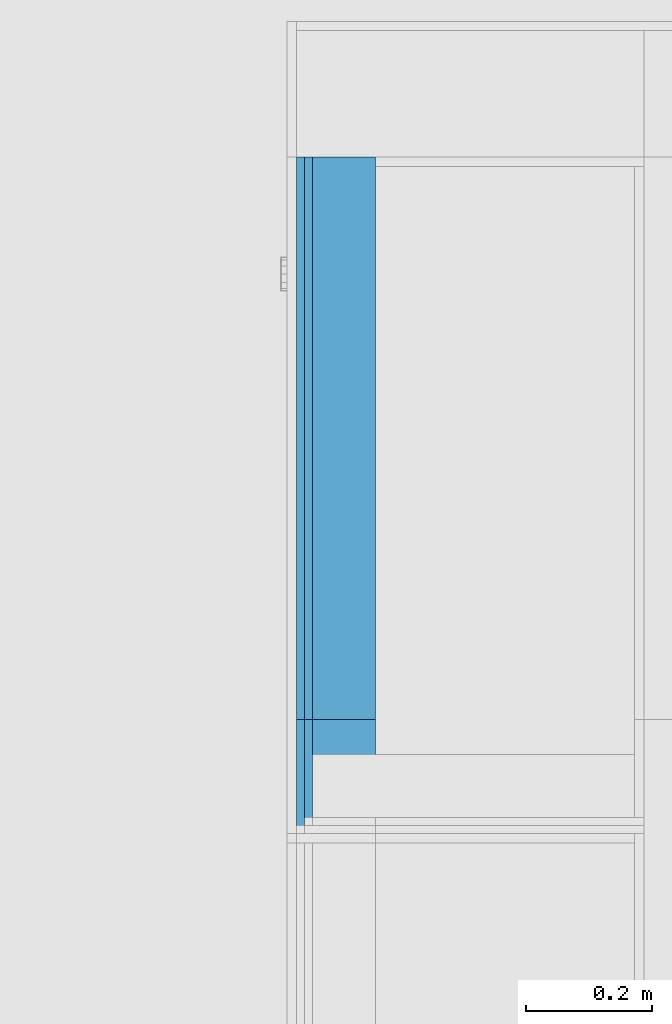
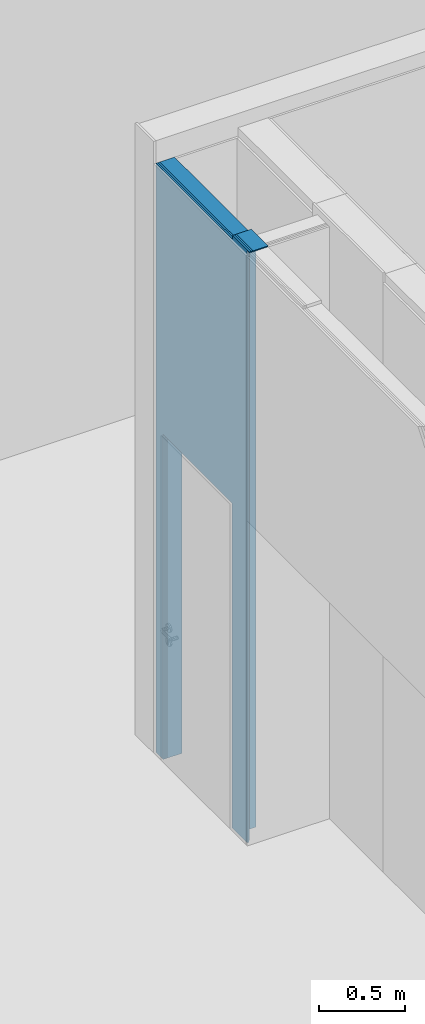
# One storey, part 114 of 260: 3 building element parts, 1 opening, 1 element without a shape of its own.
"""IFC2X3 building model written with IfcOpenShell, lengths in millimetres."""

from ifc_helpers import new_model, entity, si_unit, converted_unit, derived_unit, money_unit, direction, frame, origin_with_axes, place, context, subcontext, project, spatial, faceted_brep, material, type_object, element, aggregate, save


model = new_model("IFC2X3")

# Units and contexts
model_context = context("Model", 3, precision=0.01, world=origin_with_axes(), true_north=direction((0.0, 1.0)))
body_context = subcontext(model_context, "Body", "Model", "MODEL_VIEW")
ifc_project = project(units=[si_unit("LENGTHUNIT", "METRE", prefix="MILLI"), si_unit("AREAUNIT", "SQUARE_METRE"), si_unit("VOLUMEUNIT", "CUBIC_METRE"), converted_unit("PLANEANGLEUNIT", "DEGREE", entity("IfcPlaneAngleMeasure", 0.0174532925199), si_unit("PLANEANGLEUNIT", "RADIAN"), dimensions=[0, 0, 0, 0, 0, 0, 0]), money_unit("EUR"), converted_unit("TIMEUNIT", "Year", entity("IfcTimeMeasure", 31556926.0), si_unit("TIMEUNIT", "SECOND"), dimensions=[0, 0, 1, 0, 0, 0, 0]), si_unit("MASSUNIT", "GRAM", prefix="KILO"), si_unit("THERMODYNAMICTEMPERATUREUNIT", "DEGREE_CELSIUS"), si_unit("LUMINOUSINTENSITYUNIT", "LUMEN"), si_unit("ENERGYUNIT", "JOULE", prefix="MEGA"), derived_unit("THERMALCONDUCTANCEUNIT", [(si_unit("POWERUNIT", "WATT"), 1), (si_unit("LENGTHUNIT", "METRE"), -1), (si_unit("THERMODYNAMICTEMPERATUREUNIT", "KELVIN"), -1)]), derived_unit("SPECIFICHEATCAPACITYUNIT", [(si_unit("ENERGYUNIT", "JOULE"), 1), (si_unit("MASSUNIT", "GRAM", prefix="KILO"), -1), (si_unit("THERMODYNAMICTEMPERATUREUNIT", "KELVIN"), -1)]), derived_unit("MASSDENSITYUNIT", [(si_unit("MASSUNIT", "GRAM", prefix="KILO"), 1), (si_unit("VOLUMEUNIT", "CUBIC_METRE"), -1)])], contexts=[model_context])

# Site, building, storey
site_placement = place(None, origin_with_axes())
site = spatial("IfcSite", under=ifc_project, at=site_placement, Name="Kolde pst 67a", CompositionType="ELEMENT")
building_placement = place(site_placement, origin_with_axes())
building = spatial("IfcBuilding", under=site, at=building_placement, Name="Riigigümnaasium", CompositionType="ELEMENT")
storey_placement = place(building_placement, origin_with_axes())
storey = spatial("IfcBuildingStorey", under=building, at=storey_placement, Name="1. korrus", CompositionType="ELEMENT", Elevation=0.0)

# Wall, opening, building element parts
wall_type = type_object("IfcWallType", Name="SS-MK-10/2_šahti sein+plaat 140", PredefinedType="NOTDEFINED")
wall_placement = place(storey_placement, frame((36039.99923, 49569.9999858, 0.0), z_axis=(0.0, 0.0, 1.0), x_axis=(0.0, -1.0, 0.0)))
wall = element("IfcWall", 1, at=wall_placement, inside=storey, type_object=wall_type, Name="Sisesein")
opening_placement = place(wall_placement, frame((485.000025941, 0.0, 0.0), z_axis=(0.0, 0.0, 1.0), x_axis=(1.0, 0.0, 0.0)))
element("IfcOpeningElement", 2, at=opening_placement, cuts=wall, Name="Siseuks", context=body_context, shape_type="Brep", body=[
    faceted_brep([(400.0, -280.0, 2300.0), (400.0, -280.0, 0.0), (400.0, 140.0, 0.0), (400.0, 140.0, 2300.0), (-400.0, -280.0, 2300.0), (-400.0, -280.0, 0.0), (-400.0, 140.0, 0.0), (-400.0, 140.0, 2300.0)], [[[0, 1, 2, 3]], [[0, 4, 5, 1]], [[1, 5, 6, 2]], [[3, 2, 6, 7]], [[4, 0, 3, 7]], [[5, 4, 7, 6]]]),
])
ifc_material_1 = material(Name="_KARKASS - metallkarkass CW 100/50/06 ja UW 100/40/06, samm 600, vahel mineraalvill, helineeldetegur αw = 1.0,  ISOVER ACOUSTIC 100mm või samaväärne")
building_element_part_1_placement = place(wall_placement, origin_with_axes())
building_element_part_1 = element("IfcBuildingElementPart", 3, at=building_element_part_1_placement, material=ifc_material_1, Name="_KARKASS - metallkarkass CW 100/50/06 ja UW 100/40/06, samm 600, vahel mineraalvill, helineeldetegur αw = 1.0,  ISOVER ACOUSTIC 100mm või samaväärne", context=body_context, shape_type="Brep", body=[
    faceted_brep([(885.000025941, 140.0, 0.0), (885.000025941, 140.0, 2300.0), (85.0000259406, 140.0, 2300.0), (85.0000259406, 140.0, 0.0), (0.0, 140.0, 0.0), (0.0, 140.0, 4170.0), (889.999649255, 140.0, 4170.0), (889.999649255, 140.0, 4199.99999925), (1085.00002594, 140.0, 4199.99999908), (1085.00002594, 140.0, 4191.97493709), (945.000025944, 140.0, 4191.97493709), (945.000025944, 140.0, 0.0), (885.000025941, 40.0, 0.0), (885.000025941, 40.000000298, 2300.0), (85.0000259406, 40.000000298, 2300.0), (85.0000259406, 40.0, 0.0), (0.0, 40.0, 0.0), (0.0, 40.0, 4170.0), (889.999649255, 40.000000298, 4170.0), (889.999649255, 40.0000002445, 4199.99999925), (1085.00002594, 40.000000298, 4199.99999908), (1085.00002594, 40.0000002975, 4191.97493709), (945.000025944, 40.000000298, 4191.97493709), (945.000025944, 40.0, 0.0)], [[[0, 1, 2, 3, 4, 5, 6, 7, 8, 9, 10, 11]], [[1, 0, 12, 13]], [[2, 1, 13, 14]], [[3, 2, 14, 15]], [[3, 15, 16, 4]], [[5, 4, 16, 17]], [[5, 17, 18, 6]], [[7, 6, 18, 19]], [[19, 20, 8, 7]], [[21, 9, 8, 20]], [[22, 10, 9, 21]], [[10, 22, 23, 11]], [[12, 0, 11, 23]], [[13, 12, 23, 22, 21, 20, 19, 18, 17, 16, 15, 14]]]),
])
ifc_material_2 = material(Name="_PLAATMATERJAL - kipsplaat veekindel")
building_element_part_2_placement = place(wall_placement, origin_with_axes())
building_element_part_2 = element("IfcBuildingElementPart", 4, at=building_element_part_2_placement, material=ifc_material_2, Name="_PLAATMATERJAL - kipsplaat veekindel", context=body_context, shape_type="Brep", body=[
    faceted_brep([(885.000025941, 40.0, 0.0), (885.000025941, 40.000000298, 2300.0), (85.0000259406, 40.000000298, 2300.0), (85.0000259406, 40.0, 0.0), (0.0, 40.0, 0.0), (0.0, 40.0, 4170.0), (889.999649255, 40.000000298, 4170.0), (889.999649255, 40.0000002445, 4199.99999925), (1085.00002594, 40.000000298, 4199.99999908), (1085.00002594, 40.0000002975, 4191.97493709), (1045.00002594, 40.000000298, 4191.97493709), (1045.00002594, 40.0, 0.0), (885.000025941, 27.5, 0.0), (885.000025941, 27.5, 2300.0), (85.0000259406, 27.5, 2300.0), (85.0000259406, 27.5, 0.0), (0.0, 27.5, 0.0), (0.0, 27.5, 4170.0), (889.999649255, 27.5, 4170.0), (889.999649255, 27.5, 4199.99999925), (1085.00002594, 27.5, 4199.99999908), (1085.00002594, 27.5, 4191.97493709), (1045.00002594, 27.5, 4191.97493709), (1045.00002594, 27.5, 0.0)], [[[0, 1, 2, 3, 4, 5, 6, 7, 8, 9, 10, 11]], [[1, 0, 12, 13]], [[2, 1, 13, 14]], [[3, 2, 14, 15]], [[3, 15, 16, 4]], [[5, 4, 16, 17]], [[5, 17, 18, 6]], [[7, 6, 18, 19]], [[19, 20, 8, 7]], [[21, 9, 8, 20]], [[22, 10, 9, 21]], [[10, 22, 23, 11]], [[12, 0, 11, 23]], [[13, 12, 23, 22, 21, 20, 19, 18, 17, 16, 15, 14]]]),
])
building_element_part_3_placement = place(wall_placement, origin_with_axes())
building_element_part_3 = element("IfcBuildingElementPart", 5, at=building_element_part_3_placement, material=ifc_material_2, Name="_PLAATMATERJAL - kipsplaat veekindel", context=body_context, shape_type="Brep", body=[
    faceted_brep([(885.000025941, 27.5, 0.0), (885.000025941, 27.5, 2300.0), (85.0000259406, 27.5, 2300.0), (85.0000259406, 27.5, 0.0), (0.0, 27.5, 0.0), (0.0, 27.5, 4170.0), (889.999649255, 27.5, 4170.0), (889.999649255, 27.5, 4199.99999925), (1085.00002594, 27.5, 4199.99999908), (1085.00002594, 27.5, 4191.97493709), (1057.50002594, 27.5, 4191.97493709), (1057.50002594, 27.5, 0.0), (885.000025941, 15.0, 0.0), (885.000025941, 15.0, 2300.0), (85.0000259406, 15.0, 2300.0), (85.0000259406, 15.0, 0.0), (0.0, 15.0, 0.0), (0.0, 15.0, 4170.0), (889.999649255, 15.0, 4170.0), (889.999649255, 15.0, 4199.99999925), (1085.00002594, 15.0000008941, 4199.99999908), (1085.00002594, 15.0000008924, 4191.97493709), (1057.50002594, 15.0000008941, 4191.97493709), (1057.50002594, 15.0, 0.0)], [[[0, 1, 2, 3, 4, 5, 6, 7, 8, 9, 10, 11]], [[1, 0, 12, 13]], [[2, 1, 13, 14]], [[3, 2, 14, 15]], [[3, 15, 16, 4]], [[5, 4, 16, 17]], [[5, 17, 18, 6]], [[7, 6, 18, 19]], [[19, 20, 8, 7]], [[21, 9, 8, 20]], [[22, 10, 9, 21]], [[10, 22, 23, 11]], [[12, 0, 11, 23]], [[13, 12, 23, 22, 21, 20, 19, 18, 17, 16, 15, 14]]]),
])
aggregate(wall, [building_element_part_1, building_element_part_2, building_element_part_3])

save(model, "model.ifc")
